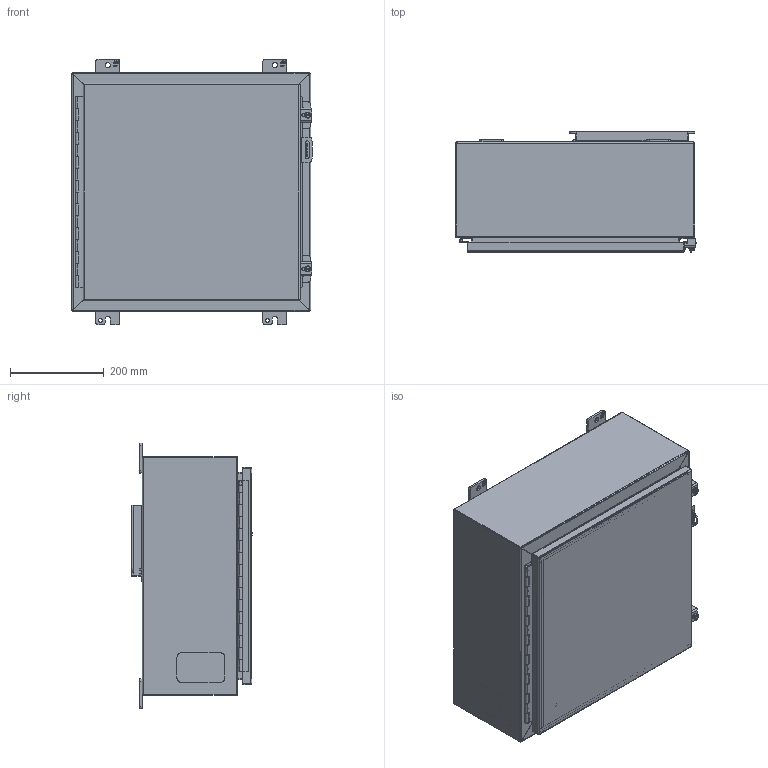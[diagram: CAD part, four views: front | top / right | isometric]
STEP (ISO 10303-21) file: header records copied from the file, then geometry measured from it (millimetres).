
FILE_DESCRIPTION(/* description */ ('Unknown'),/* implementation_level */ '2;1');
FILE_NAME(/* name */ '1418D8LP',/* time_stamp */ '2026-02-20T16:29:51-05:00',/* author */ ('Unknown'),/* organization */ ('Unknown'),/* preprocessor_version */ 'ST-DEVELOPER v18.104',/* originating_system */ 'Solid Edge',/* authorisation */ 'Unknown');
FILE_SCHEMA (('AUTOMOTIVE_DESIGN {1 0 10303 214 3 1 1}'));
Length unit declared in the file: millimetre
Products named in the file (30): 1418D8LP; STD26094; STD21878; COM42780; KIT90518; WAF25059; NTS166105; LAB30005; COM40153-1; COM71780-7; COM40153-2; PNT11078; COM70219_oa_0; HNG10620-16C; COM48437; FET07710; AKT90223; SPR20265; SCC19011; WAF25035; COM42667; HNG10620-16P; BUL10020; QLB30109; PKT99; HNG10620-16B; KIT90256; NTS165305; NTS16535
Assembly tree (40 placements, depth 3):
  1418D8LP
    STD26094  x4
    STD21878
    COM42780  x2
    KIT90518
      WAF25059
      NTS166105
      LAB30005
    COM40153-1
    COM71780-7
      COM40153-2
      PNT11078
      COM70219_oa_0
      HNG10620-16C
      COM71780-7
      STD21878
    COM48437
    FET07710  x4
    AKT90223  x2
      SPR20265
      SCC19011
      WAF25035
      COM42667
    HNG10620-16P
    BUL10020
    QLB30109
    PKT99
    HNG10620-16B
    KIT90256
      LAB30005
      NTS165305
      NTS16535
    PNT11078
Bounding box: 511.18 x 257.18 x 565.15 mm (x, y, z)
Volume: 2222523.9 mm3; surface area: 2368733.3 mm2
Topology: 34 solids, 35 shells, 1157 faces, 2931 edges, 1878 vertices
Faces by surface type: plane 770, cylinder 290, bspline 49, cone 26, torus 20, sphere 2
Full cylindrical faces by diameter (mm): 3.175 x1, 4.763 x1, 4.976 x1, 5.41 x2, 6.198 x2, 6.35 x3, 6.731 x2, 7.137 x2, 7.805 x1, 7.938 x4, 8.382 x4, 9.525 x4, 9.906 x2, 11.113 x4, 11.303 x1, 12.7 x2, 16.51 x4, 25.4 x1, 88.9 x1
Entity records: 28725 total; most frequent: CARTESIAN_POINT 8065, ORIENTED_EDGE 4112, DIRECTION 3887, EDGE_CURVE 2056, LINE 1393, VECTOR 1393, VERTEX_POINT 1321, AXIS2_PLACEMENT_3D 1247
